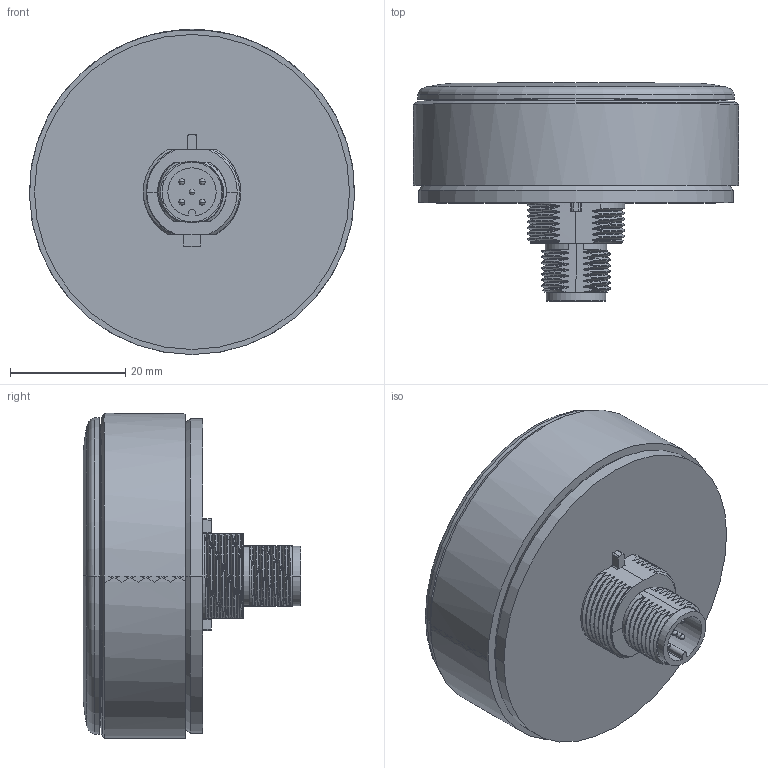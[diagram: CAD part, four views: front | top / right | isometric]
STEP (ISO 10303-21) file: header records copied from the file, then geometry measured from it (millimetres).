
FILE_DESCRIPTION((''),'2;1');
FILE_NAME('TEYY-X_MODELS','2022-10-17T',('kdooley'),(''),'PRO/ENGINEER BY PARAMETRIC TECHNOLOGY CORPORATION, 2016100','PRO/ENGINEER BY PARAMETRIC TECHNOLOGY CORPORATION, 2016100','');
FILE_SCHEMA(('CONFIG_CONTROL_DESIGN'));
Length unit declared in the file: inch
Products named in the file (1): TEYY-X_MODELS
Bounding box: 56.39 x 37.78 x 56.39 mm (x, y, z)
Volume: 52293.4 mm3; surface area: 10429.5 mm2
Topology: 1 solids, 13 shells, 360 faces, 1084 edges, 751 vertices
Faces by surface type: bspline 168, cylinder 93, plane 43, cone 30, torus 14, sphere 10, revolution 2
Entity records: 20355 total; most frequent: CARTESIAN_POINT 12240, ORIENTED_EDGE 2148, EDGE_CURVE 1074, DIRECTION 964, VERTEX_POINT 751, B_SPLINE_CURVE_WITH_KNOTS 672, EDGE_LOOP 371, AXIS2_PLACEMENT_3D 368
